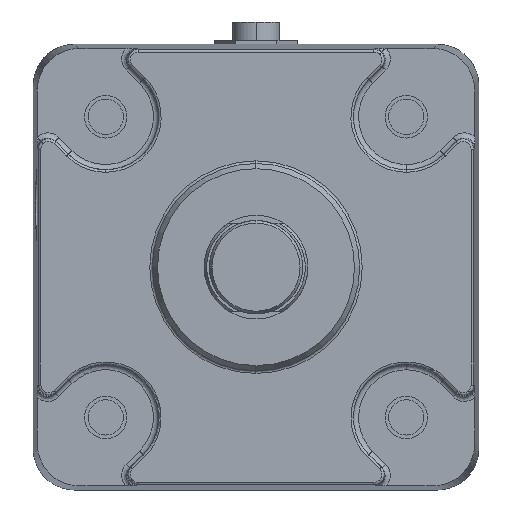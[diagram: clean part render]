
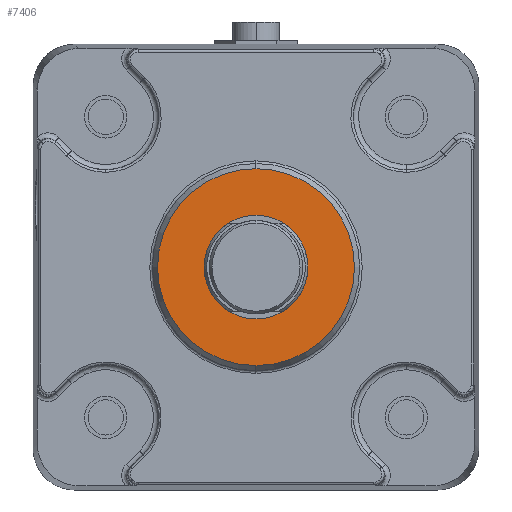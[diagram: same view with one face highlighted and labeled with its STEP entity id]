
A CAD part, left-side view. The second image highlights one B-rep face of the part: STEP entity #7406.
In plain terms, the highlighted planar face has unit normal (-1, 0, 0).
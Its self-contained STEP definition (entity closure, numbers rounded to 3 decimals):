
#91 = CIRCLE ( 'NONE', #9218, 10. ) ;
#210 = CIRCLE ( 'NONE', #4616, 19. ) ;
#285 = DIRECTION ( 'NONE',  ( 0., 0., 1. ) ) ;
#956 = DIRECTION ( 'NONE',  ( 1., 0., 0. ) ) ;
#1113 = AXIS2_PLACEMENT_3D ( 'NONE', #6862, #3896, #1941 ) ;
#1397 = VERTEX_POINT ( 'NONE', #6236 ) ;
#1655 = ORIENTED_EDGE ( 'NONE', *, *, #5762, .T. ) ;
#1941 = DIRECTION ( 'NONE',  ( 0., 0., 1. ) ) ;
#2190 = ORIENTED_EDGE ( 'NONE', *, *, #4918, .T. ) ;
#2215 = VERTEX_POINT ( 'NONE', #4051 ) ;
#2556 = ORIENTED_EDGE ( 'NONE', *, *, #5217, .T. ) ;
#2586 = PLANE ( 'NONE',  #1113 ) ;
#3896 = DIRECTION ( 'NONE',  ( -1., 0., 0. ) ) ;
#4051 = CARTESIAN_POINT ( 'NONE',  ( -66., 0., -19. ) ) ;
#4279 = DIRECTION ( 'NONE',  ( 1., 0., 0. ) ) ;
#4616 = AXIS2_PLACEMENT_3D ( 'NONE', #7893, #6076, #10018 ) ;
#4719 = DIRECTION ( 'NONE',  ( -1., 0., 0. ) ) ;
#4741 = CARTESIAN_POINT ( 'NONE',  ( -66., 0., 0. ) ) ;
#4742 = CARTESIAN_POINT ( 'NONE',  ( -66., 0., 10. ) ) ;
#4918 = EDGE_CURVE ( 'NONE', #2215, #1397, #210, .T. ) ;
#5217 = EDGE_CURVE ( 'NONE', #9812, #7437, #91, .T. ) ;
#5316 = CARTESIAN_POINT ( 'NONE',  ( -66., 0., 0. ) ) ;
#5377 = AXIS2_PLACEMENT_3D ( 'NONE', #6521, #4719, #285 ) ;
#5649 = CIRCLE ( 'NONE', #8220, 10. ) ;
#5674 = EDGE_LOOP ( 'NONE', ( #2556, #5983 ) ) ;
#5762 = EDGE_CURVE ( 'NONE', #1397, #2215, #6099, .T. ) ;
#5983 = ORIENTED_EDGE ( 'NONE', *, *, #7533, .T. ) ;
#6076 = DIRECTION ( 'NONE',  ( -1., 0., 0. ) ) ;
#6099 = CIRCLE ( 'NONE', #5377, 19. ) ;
#6236 = CARTESIAN_POINT ( 'NONE',  ( -66., 0., 19. ) ) ;
#6521 = CARTESIAN_POINT ( 'NONE',  ( -66., 0., 0. ) ) ;
#6695 = DIRECTION ( 'NONE',  ( 0., 0., -1. ) ) ;
#6862 = CARTESIAN_POINT ( 'NONE',  ( -66., 20., 0. ) ) ;
#6931 = CARTESIAN_POINT ( 'NONE',  ( -66., 0., -10. ) ) ;
#7406 = ADVANCED_FACE ( 'NONE', ( #10168, #10000 ), #2586, .T. ) ;
#7437 = VERTEX_POINT ( 'NONE', #4742 ) ;
#7533 = EDGE_CURVE ( 'NONE', #7437, #9812, #5649, .T. ) ;
#7893 = CARTESIAN_POINT ( 'NONE',  ( -66., 0., 0. ) ) ;
#8220 = AXIS2_PLACEMENT_3D ( 'NONE', #4741, #956, #6695 ) ;
#9218 = AXIS2_PLACEMENT_3D ( 'NONE', #5316, #4279, #9727 ) ;
#9727 = DIRECTION ( 'NONE',  ( 0., 0., -1. ) ) ;
#9812 = VERTEX_POINT ( 'NONE', #6931 ) ;
#10000 = FACE_BOUND ( 'NONE', #5674, .T. ) ;
#10018 = DIRECTION ( 'NONE',  ( 0., 0., 1. ) ) ;
#10075 = EDGE_LOOP ( 'NONE', ( #2190, #1655 ) ) ;
#10168 = FACE_OUTER_BOUND ( 'NONE', #10075, .T. ) ;
